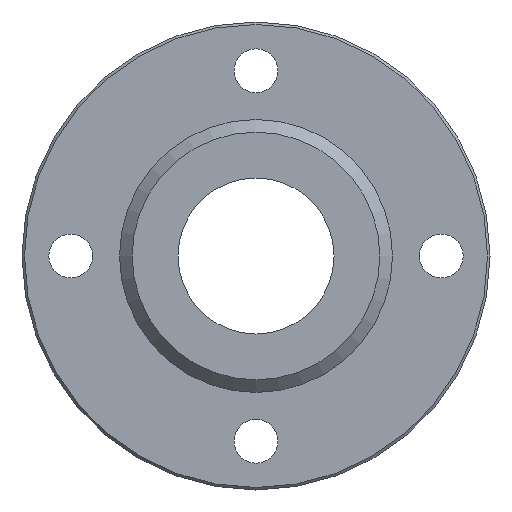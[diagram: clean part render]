
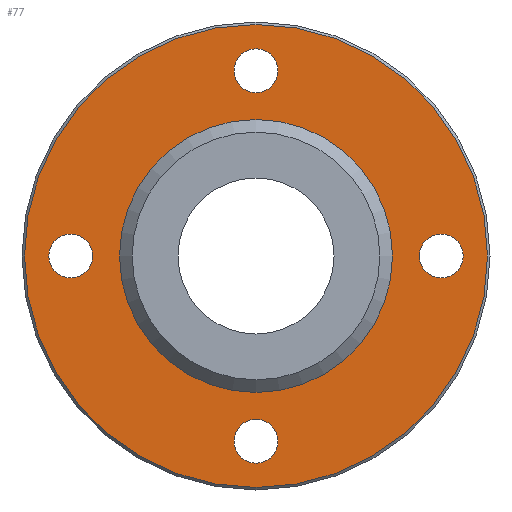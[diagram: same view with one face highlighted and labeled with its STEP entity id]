
A CAD part, left-side view. The second image highlights one B-rep face of the part: STEP entity #77.
In plain terms, the highlighted planar face has unit normal (-1, 0, 0).
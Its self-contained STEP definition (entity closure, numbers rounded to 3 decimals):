
#77=ADVANCED_FACE('',(#103,#104,#105,#106,#107,#108),#109,.F.);
#103=FACE_BOUND('',#174,.T.);
#104=FACE_BOUND('',#175,.T.);
#105=FACE_BOUND('',#176,.T.);
#106=FACE_BOUND('',#177,.T.);
#107=FACE_BOUND('',#178,.T.);
#108=FACE_OUTER_BOUND('',#179,.T.);
#109=PLANE('',#180);
#174=EDGE_LOOP('',(#249));
#175=EDGE_LOOP('',(#250));
#176=EDGE_LOOP('',(#251));
#177=EDGE_LOOP('',(#252));
#178=EDGE_LOOP('',(#253));
#179=EDGE_LOOP('',(#254));
#180=AXIS2_PLACEMENT_3D('',#255,#256,#257);
#249=ORIENTED_EDGE('',*,*,#355,.T.);
#250=ORIENTED_EDGE('',*,*,#356,.T.);
#251=ORIENTED_EDGE('',*,*,#357,.T.);
#252=ORIENTED_EDGE('',*,*,#358,.T.);
#253=ORIENTED_EDGE('',*,*,#354,.F.);
#254=ORIENTED_EDGE('',*,*,#359,.T.);
#255=CARTESIAN_POINT('',(-9.0,23.746,0.0));
#256=DIRECTION('',(1.0,0.0,0.0));
#257=DIRECTION('',(0.0,0.0,-1.0));
#354=EDGE_CURVE('',#381,#381,#382,.T.);
#355=EDGE_CURVE('',#383,#383,#384,.T.);
#356=EDGE_CURVE('',#385,#385,#386,.T.);
#357=EDGE_CURVE('',#387,#387,#388,.T.);
#358=EDGE_CURVE('',#389,#389,#390,.T.);
#359=EDGE_CURVE('',#391,#391,#392,.T.);
#381=VERTEX_POINT('',#431);
#382=CIRCLE('',#432,14.0);
#383=VERTEX_POINT('',#433);
#384=CIRCLE('',#434,2.25);
#385=VERTEX_POINT('',#435);
#386=CIRCLE('',#436,2.25);
#387=VERTEX_POINT('',#437);
#388=CIRCLE('',#438,2.25);
#389=VERTEX_POINT('',#439);
#390=CIRCLE('',#440,2.25);
#391=VERTEX_POINT('',#441);
#392=CIRCLE('',#442,23.746);
#431=CARTESIAN_POINT('',(-9.0,0.,14.0));
#432=AXIS2_PLACEMENT_3D('',#483,#484,#485);
#433=CARTESIAN_POINT('',(-9.0,0.0,16.75));
#434=AXIS2_PLACEMENT_3D('',#486,#487,#488);
#435=CARTESIAN_POINT('',(-9.0,-19.0,-2.25));
#436=AXIS2_PLACEMENT_3D('',#489,#490,#491);
#437=CARTESIAN_POINT('',(-9.0,0.,-21.25));
#438=AXIS2_PLACEMENT_3D('',#492,#493,#494);
#439=CARTESIAN_POINT('',(-9.0,19.0,-2.25));
#440=AXIS2_PLACEMENT_3D('',#495,#496,#497);
#441=CARTESIAN_POINT('',(-9.0,0.,23.746));
#442=AXIS2_PLACEMENT_3D('',#498,#499,#500);
#483=CARTESIAN_POINT('',(-9.0,0.,0.0));
#484=DIRECTION('',(-1.0,0.0,0.0));
#485=DIRECTION('',(0.0,0.0,1.0));
#486=CARTESIAN_POINT('',(-9.0,0.0,19.0));
#487=DIRECTION('',(1.0,0.0,0.0));
#488=DIRECTION('',(0.0,0.0,-1.0));
#489=CARTESIAN_POINT('',(-9.0,-19.0,0.));
#490=DIRECTION('',(1.0,0.0,0.0));
#491=DIRECTION('',(0.0,0.0,-1.0));
#492=CARTESIAN_POINT('',(-9.0,0.,-19.0));
#493=DIRECTION('',(1.0,0.0,0.0));
#494=DIRECTION('',(0.0,0.0,-1.0));
#495=CARTESIAN_POINT('',(-9.0,19.0,0.0));
#496=DIRECTION('',(1.0,0.0,0.0));
#497=DIRECTION('',(0.0,0.0,-1.0));
#498=CARTESIAN_POINT('',(-9.0,0.,0.0));
#499=DIRECTION('',(-1.0,0.0,0.0));
#500=DIRECTION('',(0.0,0.0,1.0));
